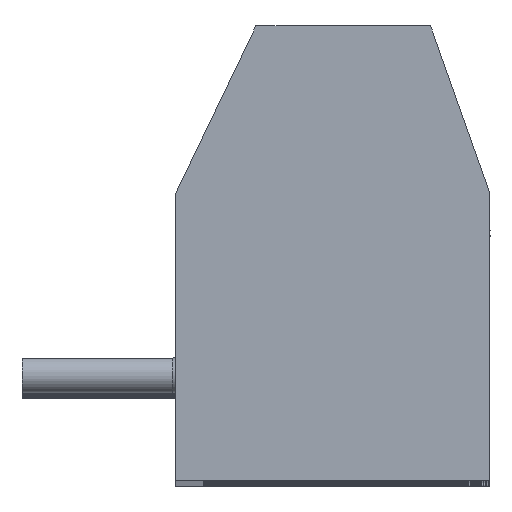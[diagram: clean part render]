
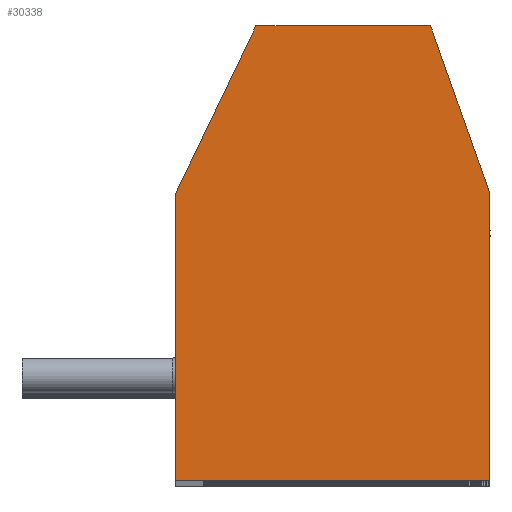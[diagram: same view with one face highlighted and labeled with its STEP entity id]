
A CAD part, top view. The second image highlights one B-rep face of the part: STEP entity #30338.
In plain terms, the highlighted planar face has unit normal (0, 0, 1).
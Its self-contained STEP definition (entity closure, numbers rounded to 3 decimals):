
#19826 = CARTESIAN_POINT ( 'NONE',  ( 0.814, 4.67, 0. ) ) ;
#20383 = CARTESIAN_POINT ( 'NONE',  ( 2.514, -0.13, 0. ) ) ;
#20384 = DIRECTION ( 'NONE',  ( -0.334, 0.943, 0. ) ) ;
#20386 = VECTOR ( 'NONE', #20384, 1000. ) ;
#20387 = CARTESIAN_POINT ( 'NONE',  ( 2.514, -0.13, 0. ) ) ;
#20388 = LINE ( 'NONE', #20387, #20386 ) ;
#20431 = CARTESIAN_POINT ( 'NONE',  ( -4.186, 4.67, 0. ) ) ;
#20433 = DIRECTION ( 'NONE',  ( -1., 0., 0. ) ) ;
#20435 = VECTOR ( 'NONE', #20433, 1000. ) ;
#20437 = CARTESIAN_POINT ( 'NONE',  ( -1.986, 4.67, 0. ) ) ;
#20439 = LINE ( 'NONE', #20437, #20435 ) ;
#25135 = VERTEX_POINT ( 'NONE', #19826 ) ;
#25276 = EDGE_CURVE ( 'NONE', #25277, #25135, #20388, .T. ) ;
#25277 = VERTEX_POINT ( 'NONE', #20383 ) ;
#25320 = EDGE_CURVE ( 'NONE', #25135, #25322, #20439, .T. ) ;
#25322 = VERTEX_POINT ( 'NONE', #20431 ) ;
#29076 = EDGE_CURVE ( 'NONE', #29077, #25277, #29443, .T. ) ;
#29077 = VERTEX_POINT ( 'NONE', #29579 ) ;
#29439 = DIRECTION ( 'NONE',  ( 0., 1., 0. ) ) ;
#29441 = CARTESIAN_POINT ( 'NONE',  ( 2.514, -8.33, 0. ) ) ;
#29443 = LINE ( 'NONE', #29441, #29580 ) ;
#29579 = CARTESIAN_POINT ( 'NONE',  ( 2.514, -8.33, 0. ) ) ;
#29580 = VECTOR ( 'NONE', #29439, 1000. ) ;
#30294 = ORIENTED_EDGE ( 'NONE', *, *, #29076, .T. ) ;
#30324 = EDGE_CURVE ( 'NONE', #25322, #30325, #31959, .T. ) ;
#30325 = VERTEX_POINT ( 'NONE', #31954 ) ;
#30338 = ADVANCED_FACE ( 'NONE', ( #32066 ), #32065, .T. ) ;
#30342 = EDGE_LOOP ( 'NONE', ( #30344, #30347, #30432, #30433, #30437, #30294 ) ) ;
#30344 = ORIENTED_EDGE ( 'NONE', *, *, #25276, .T. ) ;
#30347 = ORIENTED_EDGE ( 'NONE', *, *, #25320, .T. ) ;
#30432 = ORIENTED_EDGE ( 'NONE', *, *, #30324, .T. ) ;
#30433 = ORIENTED_EDGE ( 'NONE', *, *, #30435, .T. ) ;
#30435 = EDGE_CURVE ( 'NONE', #30325, #30436, #32100, .T. ) ;
#30436 = VERTEX_POINT ( 'NONE', #32094 ) ;
#30437 = ORIENTED_EDGE ( 'NONE', *, *, #30438, .T. ) ;
#30438 = EDGE_CURVE ( 'NONE', #30436, #29077, #32089, .T. ) ;
#31954 = CARTESIAN_POINT ( 'NONE',  ( -6.486, -0.13, 0. ) ) ;
#31956 = DIRECTION ( 'NONE',  ( -0.432, -0.902, 0. ) ) ;
#31957 = VECTOR ( 'NONE', #31956, 1000. ) ;
#31958 = CARTESIAN_POINT ( 'NONE',  ( -4.186, 4.67, 0. ) ) ;
#31959 = LINE ( 'NONE', #31958, #31957 ) ;
#32060 = DIRECTION ( 'NONE',  ( 1., 0., 0. ) ) ;
#32062 = DIRECTION ( 'NONE',  ( 0., 0., 1. ) ) ;
#32063 = CARTESIAN_POINT ( 'NONE',  ( -6.486, -8.33, 0. ) ) ;
#32064 = AXIS2_PLACEMENT_3D ( 'NONE', #32063, #32062, #32060 ) ;
#32065 = PLANE ( 'NONE',  #32064 ) ;
#32066 = FACE_OUTER_BOUND ( 'NONE', #30342, .T. ) ;
#32086 = DIRECTION ( 'NONE',  ( 1., 0., 0. ) ) ;
#32087 = VECTOR ( 'NONE', #32086, 1000. ) ;
#32088 = CARTESIAN_POINT ( 'NONE',  ( -6.486, -8.33, 0. ) ) ;
#32089 = LINE ( 'NONE', #32088, #32087 ) ;
#32094 = CARTESIAN_POINT ( 'NONE',  ( -6.486, -8.33, 0. ) ) ;
#32095 = DIRECTION ( 'NONE',  ( 0., -1., 0. ) ) ;
#32096 = VECTOR ( 'NONE', #32095, 1000. ) ;
#32098 = CARTESIAN_POINT ( 'NONE',  ( -6.486, -4.23, 0. ) ) ;
#32100 = LINE ( 'NONE', #32098, #32096 ) ;
